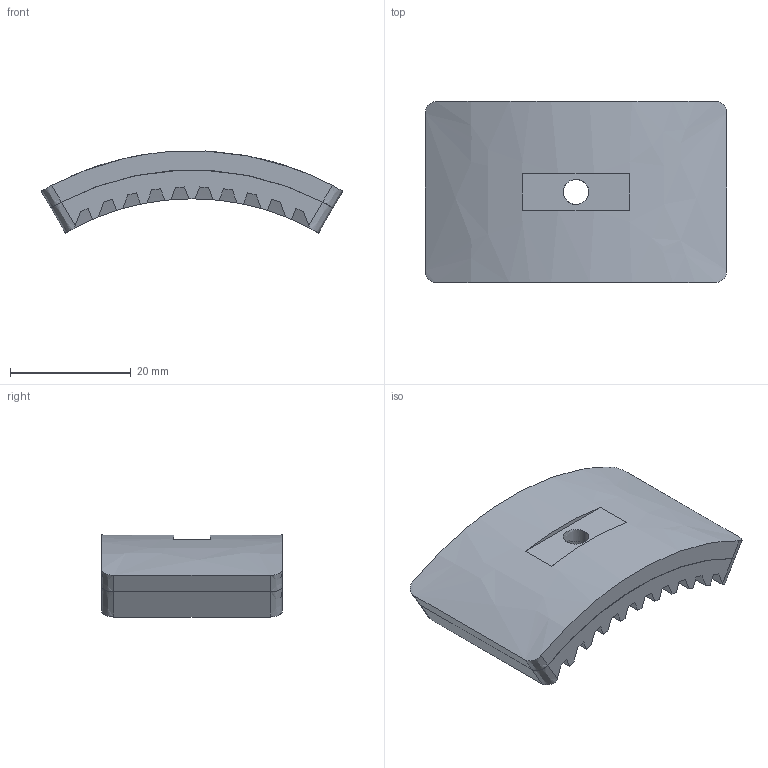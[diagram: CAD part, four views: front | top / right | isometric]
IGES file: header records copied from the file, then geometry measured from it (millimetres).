
Start section:  PTC IGES file: 370005_cp-018.igs
Global section: file name: 370005_cp-018.igs; native system: Pro/ENGINEER by Parametric Technology Corporation; preprocessor: 2004090; author: KAIHATSU01; organization: Unknown; date: 061017.092912; units: millimetre
Bounding box: 50 x 30 x 13.59 mm (x, y, z)
Volume: 10404.4 mm3; surface area: 5050.1 mm2
Topology: 1 solids, 1 shells, 395 faces, 1002 edges, 668 vertices
Faces by surface type: bspline 395
